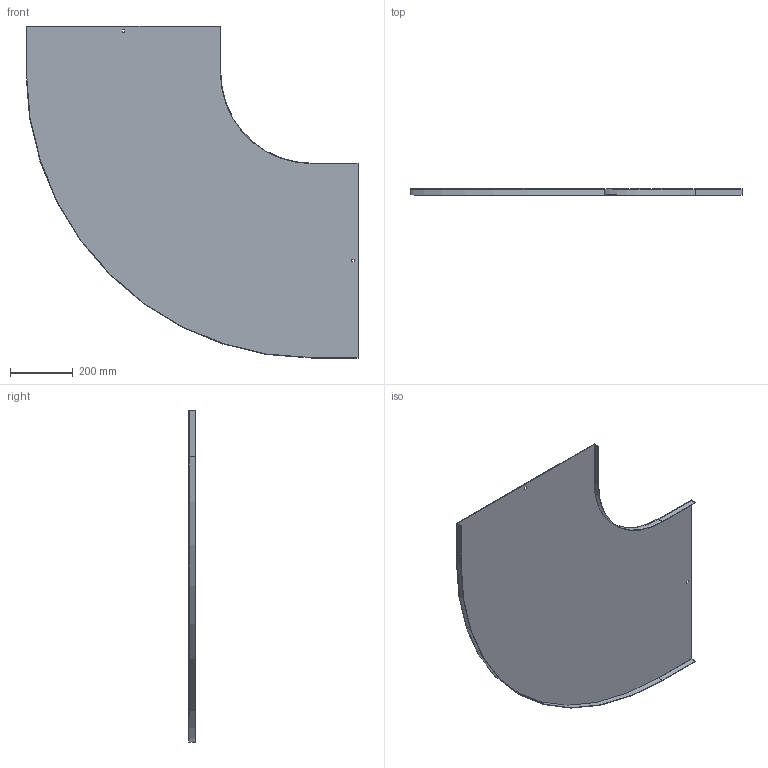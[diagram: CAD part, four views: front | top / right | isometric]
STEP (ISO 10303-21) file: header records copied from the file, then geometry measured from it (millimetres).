
FILE_DESCRIPTION (( 'STEP AP214' ), '1' );
FILE_NAME ('10N3P600.step', '2025-02-21T13:36:46', ( '' ), ( '' ), 'SwSTEP 2.0', 'SolidWorks 2023', '' );
FILE_SCHEMA (( 'AUTOMOTIVE_DESIGN' ));
Length unit declared in the file: millimetre
Products named in the file (1): 10N3P600
Bounding box: 1061.5 x 20 x 1061.5 mm (x, y, z)
Volume: 1229877.5 mm3; surface area: 1645637.1 mm2
Topology: 1 solids, 1 shells, 26 faces, 72 edges, 48 vertices
Faces by surface type: plane 22, cylinder 4
Entity records: 855 total; most frequent: CARTESIAN_POINT 147, ORIENTED_EDGE 144, DIRECTION 134, EDGE_CURVE 72, VECTOR 64, LINE 64, VERTEX_POINT 48, AXIS2_PLACEMENT_3D 35
